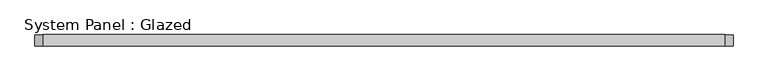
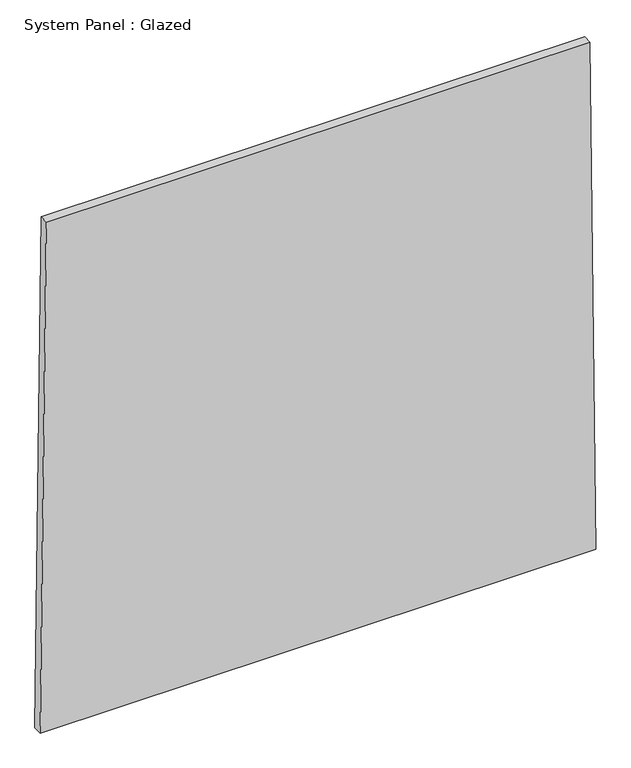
"""IFC4 building model written with IfcOpenShell, lengths in millimetres: plate geometry, System Panel : Glazed."""

from ifc_helpers import new_model, si_unit, frame, origin, place, context, project, spatial, polyline, outline, extrude, source, transform, mapped, element, save


def system_panel_glazed_d76edf87(model_context):
    return source(origin(), model_context, "Body", "SweptSolid", [
        extrude(outline(polyline([(0.0, -774.5299312), (0.0, 774.5299312), (1499.9015993, 757.3487621), (1499.9015993, -757.3487671), (0.0, -774.5299312)])), frame((0.0, -49.5, 0.0), z_axis=(0.0, 1.0, 0.0), x_axis=(0.0, 0.0, 1.0)), (0.0, 0.0, 1.0), 25.0),
    ])


if __name__ == "__main__":
    model = new_model("IFC4")
    model_context = context("Model", 3, world=origin())
    ifc_project = project(units=[si_unit("LENGTHUNIT", "METRE", prefix="MILLI")], contexts=[model_context])
    site = spatial("IfcSite", under=ifc_project)
    building = spatial("IfcBuilding", under=site)
    placement = place(None, origin())
    system_panel_glazed_shape = system_panel_glazed_d76edf87(model_context)
    element("IfcPlate", 1, ObjectType="System Panel : Glazed", at=placement, inside=building, context=model_context, shape_type="MappedRepresentation", body=[
        mapped(system_panel_glazed_shape, transform((0.0, 0.0, 0.0), x_axis=(1.0, 0.0, 0.0), y_axis=(0.0, 1.0, 0.0), z_axis=(0.0, 0.0, 1.0))),
    ])
    save(model, "model.ifc")
